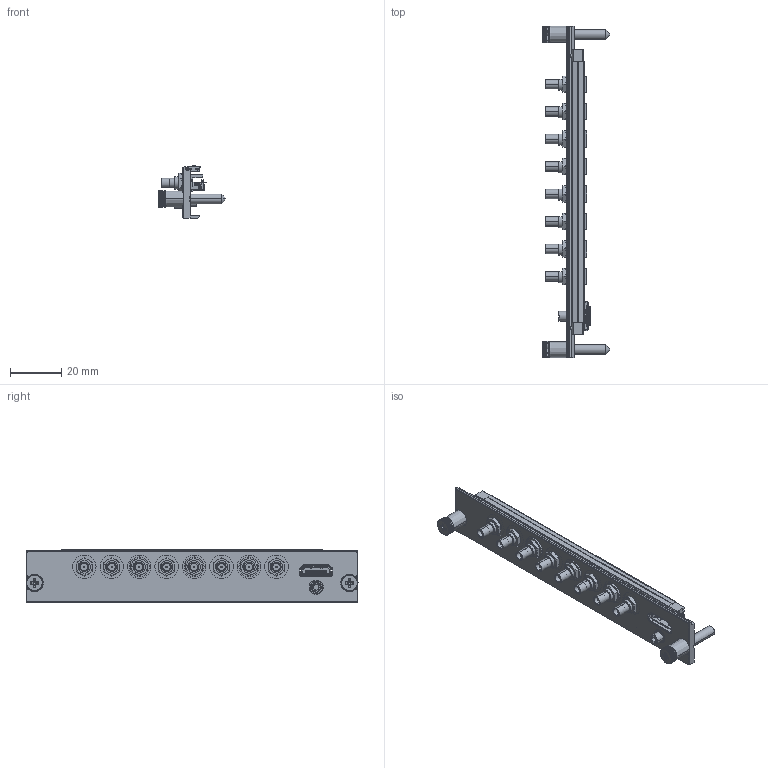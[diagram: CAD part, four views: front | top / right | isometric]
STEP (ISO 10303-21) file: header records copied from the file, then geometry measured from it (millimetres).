
FILE_DESCRIPTION((''),'2;1');
FILE_NAME('CU_PXIE-5172_8CH','2017-04-10T',('jjorden'),(''),'CREO PARAMETRIC BY PTC INC, 2015380','CREO PARAMETRIC BY PTC INC, 2015380','');
FILE_SCHEMA(('CONFIG_CONTROL_DESIGN'));
Products named in the file (1): CU_PXIE-5172_8CH
Bounding box: 26.36 x 129.02 x 20.31 mm (x, y, z)
Volume: 9743.3 mm3; surface area: 15954.4 mm2
Topology: 8 solids, 12 shells, 2600 faces, 7213 edges, 4656 vertices
Faces by surface type: plane 1729, cylinder 694, cone 64, bspline 59, extrusion 30, torus 24
Entity records: 94846 total; most frequent: CARTESIAN_POINT 28769, ORIENTED_EDGE 14406, DIRECTION 12818, EDGE_CURVE 7203, VECTOR 4886, LINE 4856, VERTEX_POINT 4656, AXIS2_PLACEMENT_3D 3966
